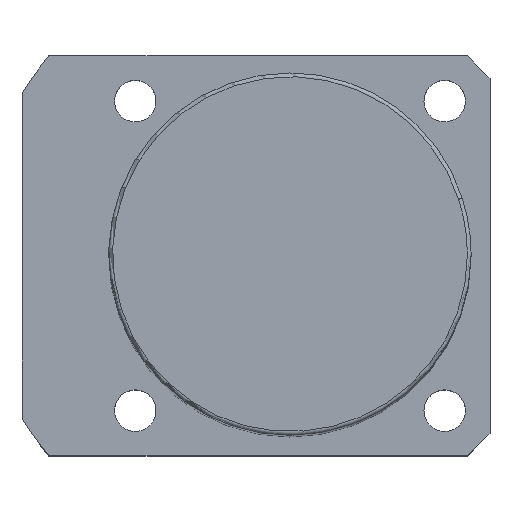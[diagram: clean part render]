
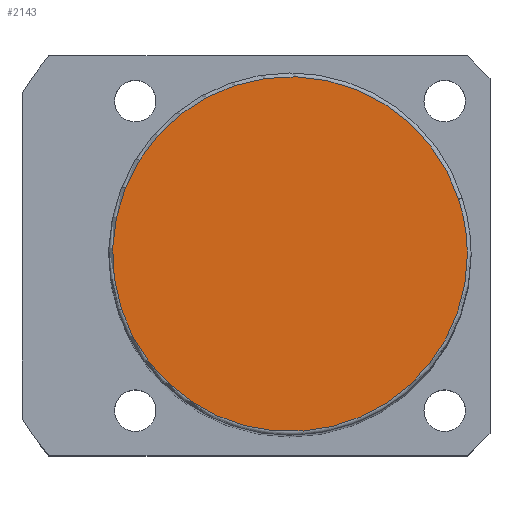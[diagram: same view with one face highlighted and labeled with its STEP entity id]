
A CAD part, top view. The second image highlights one B-rep face of the part: STEP entity #2143.
In plain terms, the highlighted planar face has unit normal (0, 0, 1).
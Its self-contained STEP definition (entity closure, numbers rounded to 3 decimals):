
#2076=CARTESIAN_POINT('',(22.35,7.262,144.0));
#2077=VERTEX_POINT('',#2076);
#2095=CARTESIAN_POINT('',(-22.35,-7.262,144.0));
#2096=VERTEX_POINT('',#2095);
#2104=CARTESIAN_POINT('',(0.0,0.0,144.0));
#2105=DIRECTION('',(0.0,0.0,1.0));
#2106=DIRECTION('',(1.0,0.0,0.0));
#2107=AXIS2_PLACEMENT_3D('',#2104,#2105,#2106);
#2108=CIRCLE('',#2107,23.5);
#2109=EDGE_CURVE('no 2135',#2077,#2096,#2108,.T.);
#2119=CARTESIAN_POINT('',(23.5,0.0,144.0));
#2120=VERTEX_POINT('',#2119);
#2121=CARTESIAN_POINT('',(0.0,0.0,144.0));
#2122=DIRECTION('',(0.0,0.0,1.0));
#2123=DIRECTION('',(1.0,0.0,0.0));
#2124=AXIS2_PLACEMENT_3D('',#2121,#2122,#2123);
#2125=CIRCLE('',#2124,23.5);
#2126=EDGE_CURVE('no 2144',#2120,#2077,#2125,.T.);
#2127=ORIENTED_EDGE('',*,*,#2126,.T.);
#2128=ORIENTED_EDGE('',*,*,#2109,.T.);
#2129=CARTESIAN_POINT('',(0.0,0.0,144.0));
#2130=DIRECTION('',(0.0,0.0,1.0));
#2131=DIRECTION('',(1.0,0.0,0.0));
#2132=AXIS2_PLACEMENT_3D('',#2129,#2130,#2131);
#2133=CIRCLE('',#2132,23.5);
#2134=EDGE_CURVE('no 2150',#2096,#2120,#2133,.T.);
#2135=ORIENTED_EDGE('',*,*,#2134,.T.);
#2136=EDGE_LOOP('',(#2127,#2128,#2135));
#2137=FACE_OUTER_BOUND('',#2136,.T.);
#2138=CARTESIAN_POINT('',(0.0,0.0,144.0));
#2139=DIRECTION('',(0.0,0.0,1.0));
#2140=DIRECTION('',(1.0,0.0,0.0));
#2141=AXIS2_PLACEMENT_3D('',#2138,#2139,#2140);
#2142=PLANE('',#2141);
#2143=ADVANCED_FACE('no 2137',(#2137),#2142,.T.);
